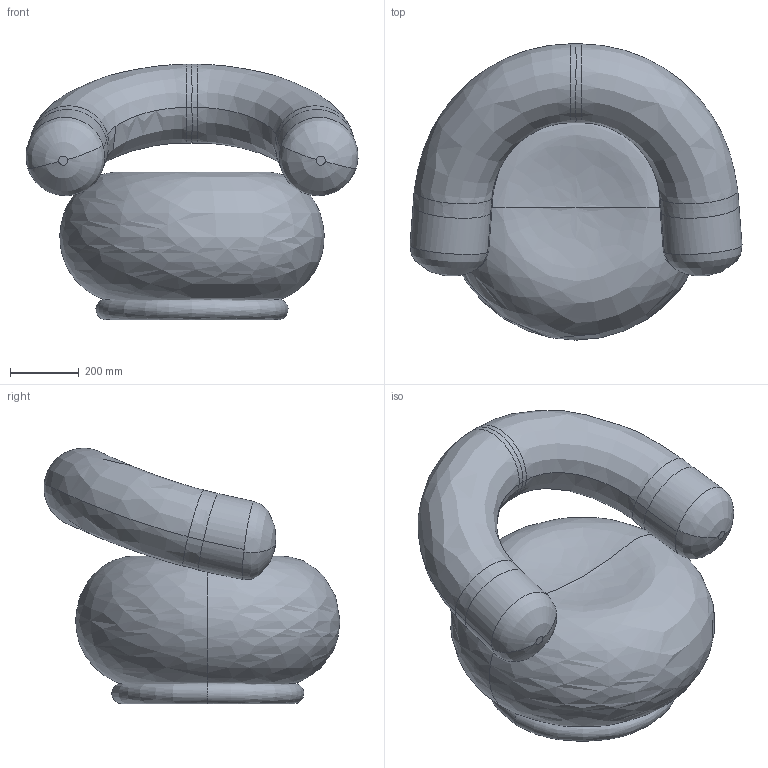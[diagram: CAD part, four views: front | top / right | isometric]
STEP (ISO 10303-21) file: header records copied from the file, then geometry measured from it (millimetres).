
FILE_DESCRIPTION(/* description */ (''),/* implementation_level */ '2;1');
FILE_NAME(/* name */ 'Orbo lounge chair_3D',/* time_stamp */ '2026-04-01T11:39:16+02:00',/* author */ (''),/* organization */ (''),/* preprocessor_version */ 'ST-DEVELOPER v19.2',/* originating_system */ 'Rhino 8.27',/* authorisation */ '');
FILE_SCHEMA (('CONFIG_CONTROL_DESIGN'));
Length unit declared in the file: millimetre
Products named in the file (1): Document
Bounding box: 966.42 x 861.53 x 743.93 mm (x, y, z)
Volume: 220129912.6 mm3; surface area: 3144022.3 mm2
Topology: 3 solids, 3 shells, 26 faces, 58 edges, 30 vertices
Faces by surface type: bspline 20, cylinder 4, plane 2
Entity records: 4122 total; most frequent: CARTESIAN_POINT 3688, ORIENTED_EDGE 100, EDGE_CURVE 50, B_SPLINE_CURVE_WITH_KNOTS 46, VERTEX_POINT 30, ADVANCED_FACE 26, FACE_OUTER_BOUND 26, EDGE_LOOP 26
